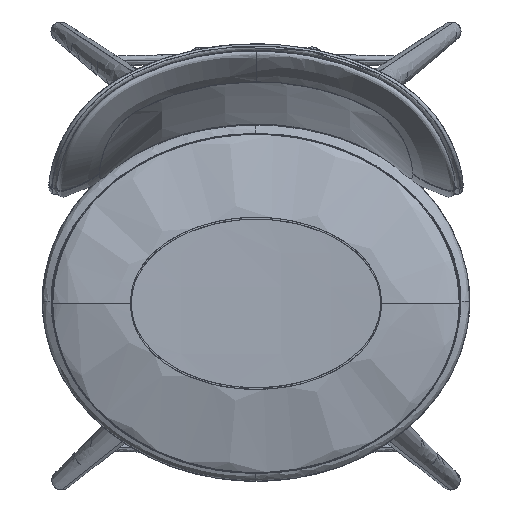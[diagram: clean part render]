
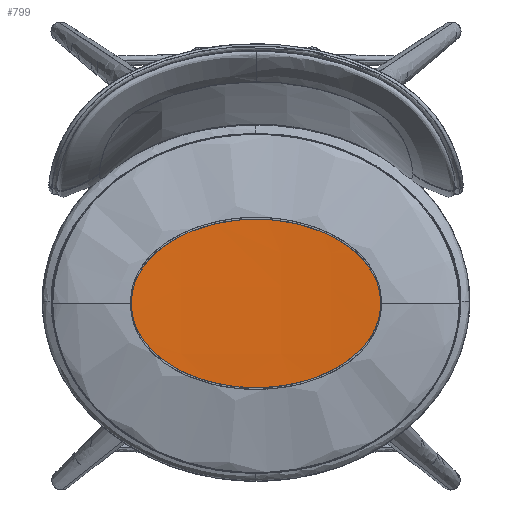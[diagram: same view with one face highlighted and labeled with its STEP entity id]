
A CAD part, top view. The second image highlights one B-rep face of the part: STEP entity #799.
In plain terms, the highlighted free-form (B-spline) face has degree [5, 5] with [6, 6] control points.
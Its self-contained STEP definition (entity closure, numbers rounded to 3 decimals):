
#259=B_SPLINE_SURFACE_WITH_KNOTS('',5,5,((#20540,#20541,#20542,#20543,#20544,
#20545),(#20546,#20547,#20548,#20549,#20550,#20551),(#20552,#20553,#20554,
#20555,#20556,#20557),(#20558,#20559,#20560,#20561,#20562,#20563),(#20564,
#20565,#20566,#20567,#20568,#20569),(#20570,#20571,#20572,#20573,#20574,
#20575)),.UNSPECIFIED.,.F.,.F.,.F.,(6,6),(6,6),(-137.7,137.7),
(-86.7,86.7),.UNSPECIFIED.);
#799=ADVANCED_FACE('',(#949),#259,.T.);
#949=FACE_OUTER_BOUND('',#1099,.T.);
#1099=EDGE_LOOP('',(#1517,#1518));
#1517=ORIENTED_EDGE('',*,*,#2163,.T.);
#1518=ORIENTED_EDGE('',*,*,#2164,.T.);
#2163=EDGE_CURVE('',#3045,#3046,#3708,.T.);
#2164=EDGE_CURVE('',#3046,#3045,#3709,.T.);
#3045=VERTEX_POINT('',#20576);
#3046=VERTEX_POINT('',#20577);
#3708=B_SPLINE_CURVE_WITH_KNOTS('',3,(#20578,#20579,#20580,#20581,#20582,
#20583,#20584,#20585,#20586,#20587,#20588,#20589,#20590,#20591,#20592,#20593,
#20594,#20595,#20596,#20597,#20598,#20599,#20600,#20601,#20602,#20603,#20604,
#20605,#20606,#20607,#20608,#20609,#20610,#20611,#20612,#20613,#20614,#20615),
 .UNSPECIFIED.,.F.,.F.,(4,2,2,2,2,2,2,2,2,2,2,2,2,2,2,2,2,2,4),(0.,22.364,
33.546,44.728,55.91,67.092,78.274,
89.456,134.183,178.911,223.639,268.367,
279.549,290.73,301.912,313.094,324.276,
335.458,357.822),.UNSPECIFIED.);
#3709=B_SPLINE_CURVE_WITH_KNOTS('',3,(#20616,#20617,#20618,#20619,#20620,
#20621,#20622,#20623,#20624,#20625,#20626,#20627,#20628,#20629,#20630,#20631,
#20632,#20633,#20634,#20635,#20636,#20637,#20638,#20639,#20640,#20641,#20642,
#20643,#20644,#20645,#20646,#20647,#20648,#20649,#20650,#20651,#20652,#20653,
#20654,#20655),.UNSPECIFIED.,.F.,.F.,(4,2,2,2,2,2,2,2,2,2,2,2,2,2,2,2,2,
2,2,4),(0.,11.17,22.34,44.68,67.014,
89.347,111.675,134.003,156.33,178.658,
201.024,223.39,245.72,268.05,290.385,
312.72,323.899,335.078,346.256,357.435),
 .UNSPECIFIED.);
#20540=CARTESIAN_POINT('',(68.813,93.207,718.395));
#20541=CARTESIAN_POINT('',(68.813,131.623,718.645));
#20542=CARTESIAN_POINT('',(68.813,170.038,718.847));
#20543=CARTESIAN_POINT('',(68.813,208.453,718.847));
#20544=CARTESIAN_POINT('',(68.813,246.869,718.645));
#20545=CARTESIAN_POINT('',(68.813,285.284,718.395));
#20546=CARTESIAN_POINT('',(125.089,93.207,715.386));
#20547=CARTESIAN_POINT('',(125.089,131.623,715.509));
#20548=CARTESIAN_POINT('',(125.089,170.038,715.548));
#20549=CARTESIAN_POINT('',(125.089,208.453,715.548));
#20550=CARTESIAN_POINT('',(125.089,246.869,715.509));
#20551=CARTESIAN_POINT('',(125.089,285.284,715.386));
#20552=CARTESIAN_POINT('',(181.365,93.207,713.368));
#20553=CARTESIAN_POINT('',(181.365,131.623,713.328));
#20554=CARTESIAN_POINT('',(181.365,170.038,713.222));
#20555=CARTESIAN_POINT('',(181.365,208.453,713.222));
#20556=CARTESIAN_POINT('',(181.365,246.869,713.328));
#20557=CARTESIAN_POINT('',(181.365,285.284,713.368));
#20558=CARTESIAN_POINT('',(237.641,93.207,713.368));
#20559=CARTESIAN_POINT('',(237.641,131.623,713.328));
#20560=CARTESIAN_POINT('',(237.641,170.038,713.222));
#20561=CARTESIAN_POINT('',(237.641,208.453,713.222));
#20562=CARTESIAN_POINT('',(237.641,246.869,713.328));
#20563=CARTESIAN_POINT('',(237.641,285.284,713.368));
#20564=CARTESIAN_POINT('',(293.917,93.207,715.386));
#20565=CARTESIAN_POINT('',(293.917,131.623,715.509));
#20566=CARTESIAN_POINT('',(293.917,170.038,715.548));
#20567=CARTESIAN_POINT('',(293.917,208.453,715.548));
#20568=CARTESIAN_POINT('',(293.917,246.869,715.509));
#20569=CARTESIAN_POINT('',(293.917,285.284,715.386));
#20570=CARTESIAN_POINT('',(350.193,93.207,718.395));
#20571=CARTESIAN_POINT('',(350.193,131.623,718.645));
#20572=CARTESIAN_POINT('',(350.193,170.038,718.847));
#20573=CARTESIAN_POINT('',(350.193,208.453,718.847));
#20574=CARTESIAN_POINT('',(350.193,246.869,718.645));
#20575=CARTESIAN_POINT('',(350.193,285.284,718.395));
#20576=CARTESIAN_POINT('',(343.541,189.246,718.379));
#20577=CARTESIAN_POINT('',(75.464,189.246,718.379));
#20578=CARTESIAN_POINT('',(343.541,189.246,718.379));
#20579=CARTESIAN_POINT('',(343.541,195.302,718.379));
#20580=CARTESIAN_POINT('',(342.723,201.475,718.329));
#20581=CARTESIAN_POINT('',(340.089,210.571,718.171));
#20582=CARTESIAN_POINT('',(338.989,213.553,718.106));
#20583=CARTESIAN_POINT('',(336.266,219.547,717.948));
#20584=CARTESIAN_POINT('',(334.638,222.543,717.855));
#20585=CARTESIAN_POINT('',(330.992,228.284,717.651));
#20586=CARTESIAN_POINT('',(328.945,231.09,717.539));
#20587=CARTESIAN_POINT('',(324.367,236.6,717.297));
#20588=CARTESIAN_POINT('',(321.875,239.252,717.168));
#20589=CARTESIAN_POINT('',(316.592,244.285,716.906));
#20590=CARTESIAN_POINT('',(313.77,246.699,716.771));
#20591=CARTESIAN_POINT('',(307.768,251.328,716.496));
#20592=CARTESIAN_POINT('',(304.59,253.536,716.357));
#20593=CARTESIAN_POINT('',(288.289,263.788,715.68));
#20594=CARTESIAN_POINT('',(273.328,269.908,715.182));
#20595=CARTESIAN_POINT('',(242.174,277.957,714.503));
#20596=CARTESIAN_POINT('',(225.788,279.953,714.316));
#20597=CARTESIAN_POINT('',(193.194,279.951,714.316));
#20598=CARTESIAN_POINT('',(176.811,277.954,714.503));
#20599=CARTESIAN_POINT('',(145.658,269.901,715.182));
#20600=CARTESIAN_POINT('',(130.707,263.785,715.68));
#20601=CARTESIAN_POINT('',(114.398,253.524,716.357));
#20602=CARTESIAN_POINT('',(111.219,251.314,716.497));
#20603=CARTESIAN_POINT('',(105.222,246.688,716.771));
#20604=CARTESIAN_POINT('',(102.404,244.277,716.906));
#20605=CARTESIAN_POINT('',(97.12,239.242,717.169));
#20606=CARTESIAN_POINT('',(94.622,236.582,717.298));
#20607=CARTESIAN_POINT('',(90.048,231.073,717.54));
#20608=CARTESIAN_POINT('',(88.001,228.268,717.652));
#20609=CARTESIAN_POINT('',(84.358,222.526,717.855));
#20610=CARTESIAN_POINT('',(82.732,219.531,717.949));
#20611=CARTESIAN_POINT('',(80.009,213.537,718.107));
#20612=CARTESIAN_POINT('',(78.911,210.554,718.172));
#20613=CARTESIAN_POINT('',(76.282,201.47,718.329));
#20614=CARTESIAN_POINT('',(75.465,195.295,718.379));
#20615=CARTESIAN_POINT('',(75.464,189.246,718.379));
#20616=CARTESIAN_POINT('',(75.464,189.246,718.379));
#20617=CARTESIAN_POINT('',(75.464,185.302,718.379));
#20618=CARTESIAN_POINT('',(75.809,181.385,718.358));
#20619=CARTESIAN_POINT('',(77.188,173.688,718.275));
#20620=CARTESIAN_POINT('',(78.235,169.898,718.212));
#20621=CARTESIAN_POINT('',(82.297,159.01,717.972));
#20622=CARTESIAN_POINT('',(86.244,152.345,717.745));
#20623=CARTESIAN_POINT('',(95.629,140.438,717.242));
#20624=CARTESIAN_POINT('',(101.057,135.172,716.966));
#20625=CARTESIAN_POINT('',(112.73,125.887,716.424));
#20626=CARTESIAN_POINT('',(118.963,121.872,716.159));
#20627=CARTESIAN_POINT('',(131.914,114.899,715.667));
#20628=CARTESIAN_POINT('',(138.632,111.936,715.44));
#20629=CARTESIAN_POINT('',(152.336,106.947,715.044));
#20630=CARTESIAN_POINT('',(159.341,104.915,714.873));
#20631=CARTESIAN_POINT('',(173.491,101.697,714.598));
#20632=CARTESIAN_POINT('',(180.653,100.508,714.493));
#20633=CARTESIAN_POINT('',(195.044,98.929,714.352));
#20634=CARTESIAN_POINT('',(202.271,98.539,714.316));
#20635=CARTESIAN_POINT('',(216.758,98.539,714.316));
#20636=CARTESIAN_POINT('',(223.956,98.927,714.352));
#20637=CARTESIAN_POINT('',(238.359,100.51,714.493));
#20638=CARTESIAN_POINT('',(245.505,101.693,714.598));
#20639=CARTESIAN_POINT('',(259.644,104.91,714.873));
#20640=CARTESIAN_POINT('',(266.659,106.944,715.044));
#20641=CARTESIAN_POINT('',(280.368,111.933,715.44));
#20642=CARTESIAN_POINT('',(287.088,114.897,715.667));
#20643=CARTESIAN_POINT('',(300.043,121.872,716.159));
#20644=CARTESIAN_POINT('',(306.282,125.893,716.425));
#20645=CARTESIAN_POINT('',(317.948,135.171,716.966));
#20646=CARTESIAN_POINT('',(323.372,140.433,717.241));
#20647=CARTESIAN_POINT('',(330.415,149.369,717.619));
#20648=CARTESIAN_POINT('',(332.581,152.53,717.739));
#20649=CARTESIAN_POINT('',(336.407,159.169,717.956));
#20650=CARTESIAN_POINT('',(338.078,162.675,718.053));
#20651=CARTESIAN_POINT('',(340.78,169.925,718.212));
#20652=CARTESIAN_POINT('',(341.821,173.707,718.275));
#20653=CARTESIAN_POINT('',(343.197,181.395,718.358));
#20654=CARTESIAN_POINT('',(343.541,185.307,718.379));
#20655=CARTESIAN_POINT('',(343.541,189.246,718.379));
